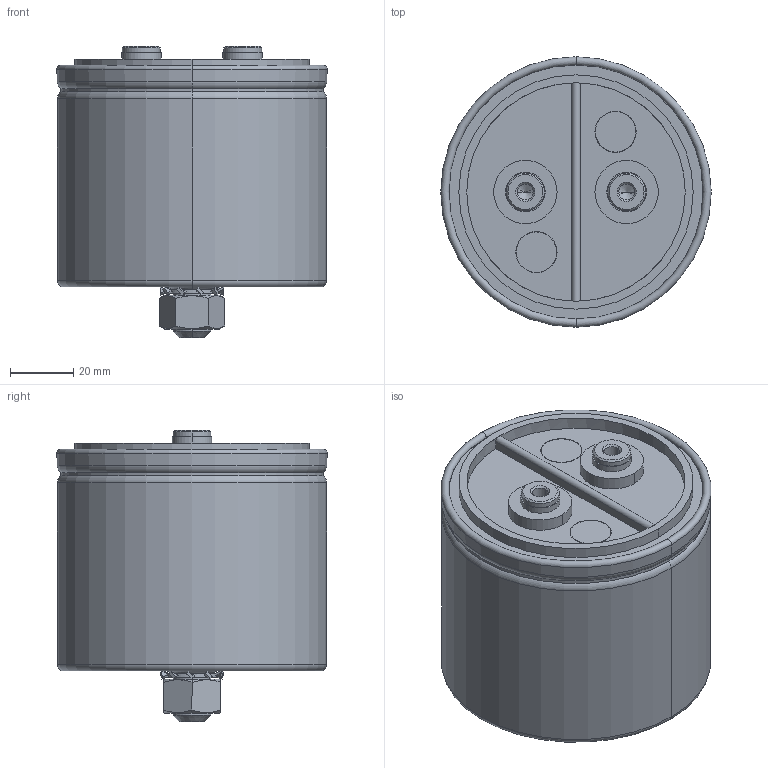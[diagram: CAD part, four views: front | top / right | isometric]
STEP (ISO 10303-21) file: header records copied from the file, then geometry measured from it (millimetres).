
FILE_DESCRIPTION (( 'STEP AP203' ), '1' );
FILE_NAME ('B25620Bx_85x70_76.STEP', '2021-06-30T05:21:18', ( '' ), ( '' ), 'SwSTEP 2.0', 'SolidWorks 2017', '' );
FILE_SCHEMA (( 'CONFIG_CONTROL_DESIGN' ));
Length unit declared in the file: millimetre
Products named in the file (1): B25620Bx_85x70_76
Bounding box: 85.4 x 85.4 x 92 mm (x, y, z)
Volume: 52872.9 mm3; surface area: 66584.2 mm2
Topology: 2 solids, 3 shells, 234 faces, 540 edges, 338 vertices
Faces by surface type: cylinder 85, plane 55, bspline 48, cone 30, torus 16
Entity records: 7453 total; most frequent: CARTESIAN_POINT 2221, ORIENTED_EDGE 1072, DIRECTION 1048, EDGE_CURVE 536, AXIS2_PLACEMENT_3D 423, VERTEX_POINT 338, EDGE_LOOP 266, CIRCLE 236
